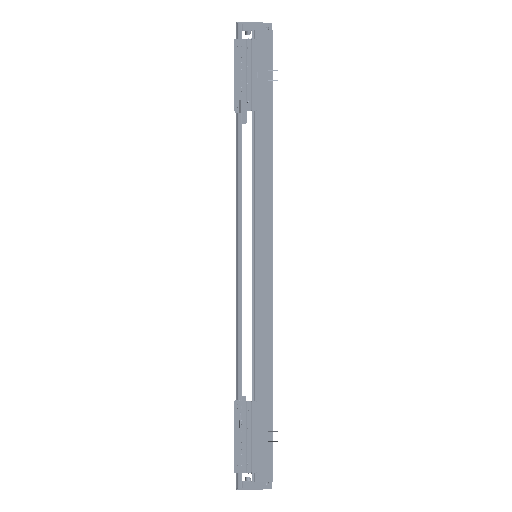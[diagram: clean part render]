
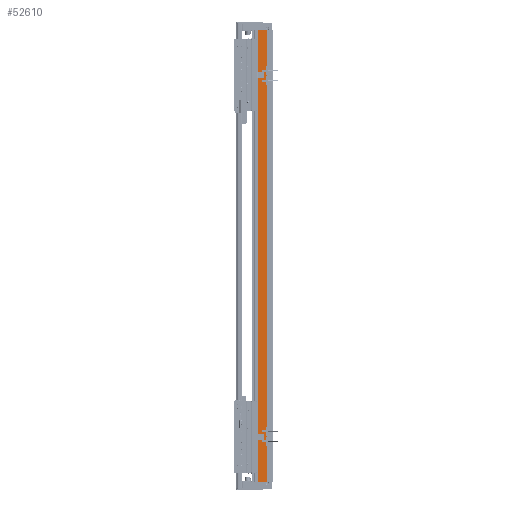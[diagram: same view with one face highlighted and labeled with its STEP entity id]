
A CAD part, left-side view. The second image highlights one B-rep face of the part: STEP entity #52610.
In plain terms, the highlighted planar face has unit normal (-1, 0, 0).
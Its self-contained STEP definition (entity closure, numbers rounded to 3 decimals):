
#8870 = LINE ( 'NONE', #93736, #140879 ) ;
#10869 = EDGE_LOOP ( 'NONE', ( #72887, #50385, #104677, #55698 ) ) ;
#13590 = LINE ( 'NONE', #27048, #143381 ) ;
#18422 = PLANE ( 'NONE',  #142094 ) ;
#19213 = DIRECTION ( 'NONE',  ( 1., 0., 0. ) ) ;
#19646 = VERTEX_POINT ( 'NONE', #75221 ) ;
#22041 = EDGE_CURVE ( 'NONE', #76151, #89528, #8870, .T. ) ;
#27048 = CARTESIAN_POINT ( 'NONE',  ( -97.5, 36.95, -600. ) ) ;
#38277 = CARTESIAN_POINT ( 'NONE',  ( -97.5, 36.95, 600. ) ) ;
#42637 = CARTESIAN_POINT ( 'NONE',  ( -97.5, 14.45, 600. ) ) ;
#43723 = LINE ( 'NONE', #92890, #131907 ) ;
#44578 = FACE_OUTER_BOUND ( 'NONE', #10869, .T. ) ;
#50385 = ORIENTED_EDGE ( 'NONE', *, *, #122439, .F. ) ;
#52610 = ADVANCED_FACE ( 'NONE', ( #44578 ), #18422, .F. ) ;
#55698 = ORIENTED_EDGE ( 'NONE', *, *, #150844, .T. ) ;
#58030 = DIRECTION ( 'NONE',  ( 0., 1., 0. ) ) ;
#60115 = CARTESIAN_POINT ( 'NONE',  ( -97.5, 36.95, -600. ) ) ;
#63960 = LINE ( 'NONE', #138590, #131334 ) ;
#72887 = ORIENTED_EDGE ( 'NONE', *, *, #117991, .T. ) ;
#73035 = DIRECTION ( 'NONE',  ( 0., -1., 0. ) ) ;
#75221 = CARTESIAN_POINT ( 'NONE',  ( -97.5, 14.45, -600. ) ) ;
#76151 = VERTEX_POINT ( 'NONE', #38277 ) ;
#89528 = VERTEX_POINT ( 'NONE', #42637 ) ;
#92890 = CARTESIAN_POINT ( 'NONE',  ( -97.5, 36.95, 600. ) ) ;
#93736 = CARTESIAN_POINT ( 'NONE',  ( -97.5, 36.95, 600. ) ) ;
#104677 = ORIENTED_EDGE ( 'NONE', *, *, #22041, .F. ) ;
#106565 = VERTEX_POINT ( 'NONE', #60115 ) ;
#110395 = DIRECTION ( 'NONE',  ( 0., -1., 0. ) ) ;
#117991 = EDGE_CURVE ( 'NONE', #106565, #19646, #13590, .T. ) ;
#118293 = DIRECTION ( 'NONE',  ( 0., 0., -1. ) ) ;
#118364 = CARTESIAN_POINT ( 'NONE',  ( -97.5, 36.95, 600. ) ) ;
#122439 = EDGE_CURVE ( 'NONE', #89528, #19646, #63960, .T. ) ;
#125089 = DIRECTION ( 'NONE',  ( 0., 0., -1. ) ) ;
#131334 = VECTOR ( 'NONE', #125089, 1000. ) ;
#131907 = VECTOR ( 'NONE', #118293, 1000. ) ;
#138590 = CARTESIAN_POINT ( 'NONE',  ( -97.5, 14.45, 600. ) ) ;
#140879 = VECTOR ( 'NONE', #73035, 1000. ) ;
#142094 = AXIS2_PLACEMENT_3D ( 'NONE', #118364, #19213, #58030 ) ;
#143381 = VECTOR ( 'NONE', #110395, 1000. ) ;
#150844 = EDGE_CURVE ( 'NONE', #76151, #106565, #43723, .T. ) ;
